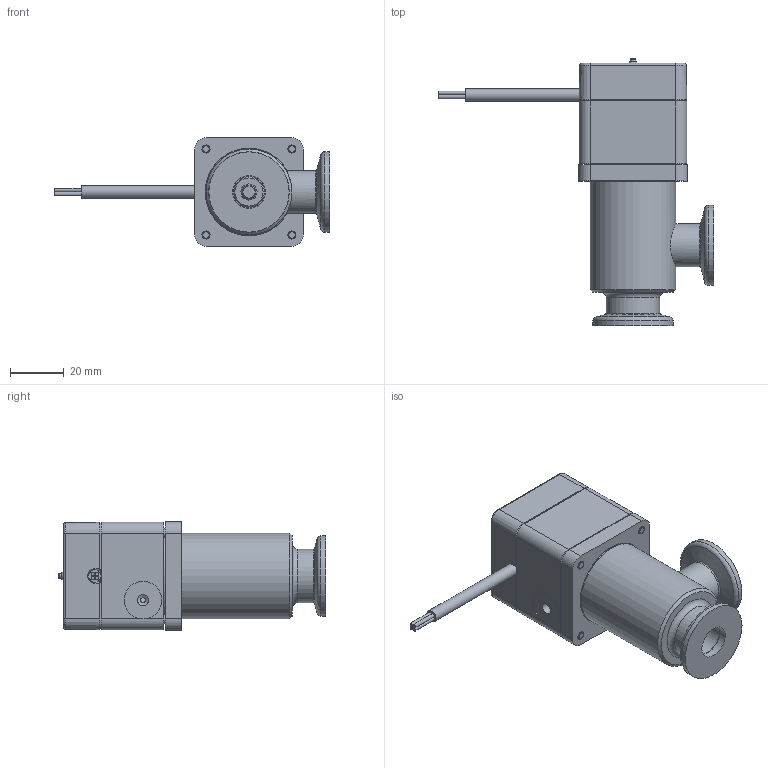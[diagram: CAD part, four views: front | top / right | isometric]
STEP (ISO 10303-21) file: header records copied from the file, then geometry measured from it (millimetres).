
FILE_DESCRIPTION(/* description */ (''),/* implementation_level */ '2;1');
FILE_NAME(/* name */ '1538048420_203.stp',/* time_stamp */ '2021-04-28T13:20:46+02:00',/* author */ (''),/* organization */ (''),/* preprocessor_version */ 'ST-DEVELOPER v16.7',/* originating_system */ 'SIEMENS PLM Software NX 1915',/* authorisation */ '');
FILE_SCHEMA (('AP203_CONFIGURATION_CONTROLLED_3D_DESIGN_OF_MECHANICAL_PARTS_AND_ASSEMBLIES_MIM_LF { 1 0 10303 403 2 1 2}'));
Length unit declared in the file: millimetre
Products named in the file (13): 346126.1; 245708.5; 346129.1; 236208.2; 233364; 239888_6.1; 236204_1.1; 234225.1; 228218.16; 230165.10; 346132.2; 402885_NX-ARRAGMNTLAGEMELDERZEICHNUNG; 384152
Assembly tree (18 placements, depth 3):
  384152
    230165.10  x2
    228218.16
    402885_NX-ARRAGMNTLAGEMELDERZEICHNUNG
      236204_1.1  x2
      239888_6.1
      233364
      236208.2  x2
    234225.1  x4
    346132.2
      346129.1
      245708.5
      346126.1
Bounding box: 102.43 x 99.7 x 40.4 mm (x, y, z)
Volume: 60800.7 mm3; surface area: 46085.5 mm2
Topology: 16 solids, 16 shells, 601 faces, 1470 edges, 953 vertices
Faces by surface type: plane 331, cylinder 141, cone 77, torus 25, bspline 25, sphere 2
Full cylindrical faces by diameter (mm): 1.4 x8, 1.8 x1, 2 x8, 2.2 x4, 2.3 x2, 2.5 x2, 3 x12, 3.3 x4, 4 x2, 4.2 x1, 4.6 x1, 4.7 x2, 4.8 x2, 4.9 x2, 5.1 x2, 5.5 x4, 5.6 x2, 5.984 x6, 6 x1, 6.01 x2, 8.85 x1, 11.5 x1, 12 x3, 12.3 x2, 14 x1, 16 x1, 20 x1, 28 x1, 28.05 x1, 28.2 x1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
Entity records: 15552 total; most frequent: CARTESIAN_POINT 3074, DIRECTION 2301, ORIENTED_EDGE 2072, EDGE_CURVE 1036, AXIS2_PLACEMENT_3D 841, VERTEX_POINT 755, EDGE_LOOP 708, LINE 619
